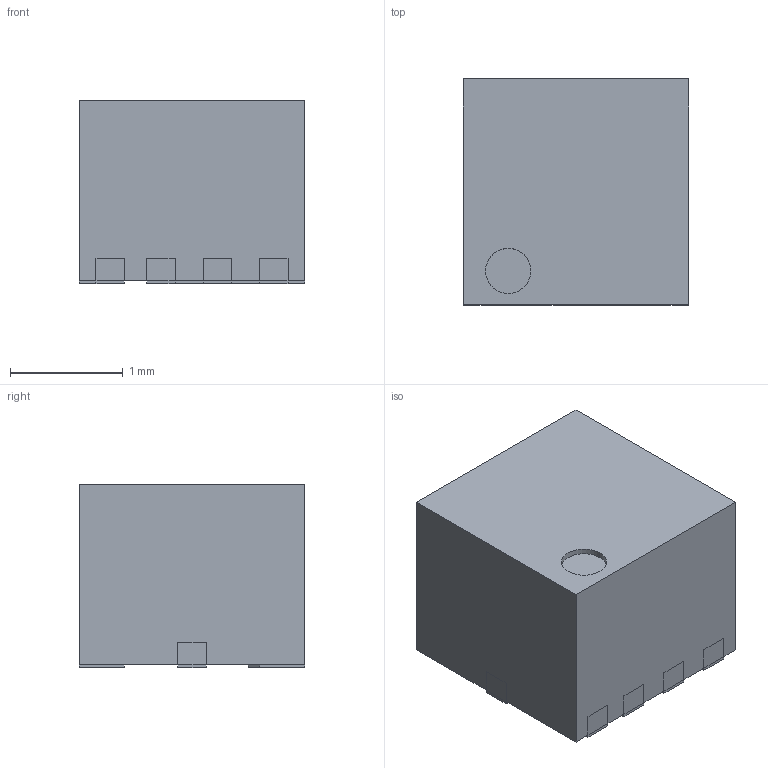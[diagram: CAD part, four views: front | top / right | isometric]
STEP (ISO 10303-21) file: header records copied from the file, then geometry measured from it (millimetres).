
FILE_DESCRIPTION (( 'STEP AP214' ), '1' );
FILE_NAME ('MPM3811GG.STEP', '2023-06-16T08:50:39', ( '' ), ( '' ), 'SwSTEP 2.0', 'SolidWorks 2017', '' );
FILE_SCHEMA (( 'AUTOMOTIVE_DESIGN' ));
Length unit declared in the file: millimetre
Products named in the file (1): MPM3811GG
Bounding box: 2 x 2 x 1.62 mm (x, y, z)
Volume: 6.4 mm3; surface area: 31.3 mm2
Topology: 13 solids, 13 shells, 156 faces, 387 edges, 258 vertices
Faces by surface type: plane 154, cylinder 2
Entity records: 5260 total; most frequent: CARTESIAN_POINT 802, ORIENTED_EDGE 774, DIRECTION 705, EDGE_CURVE 387, LINE 383, VECTOR 383, VERTEX_POINT 258, AXIS2_PLACEMENT_3D 161
